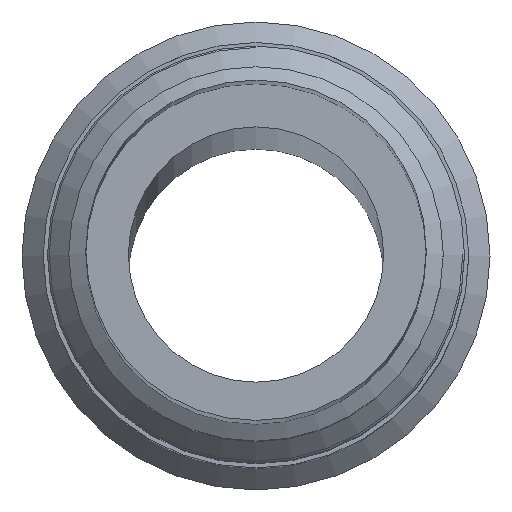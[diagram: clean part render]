
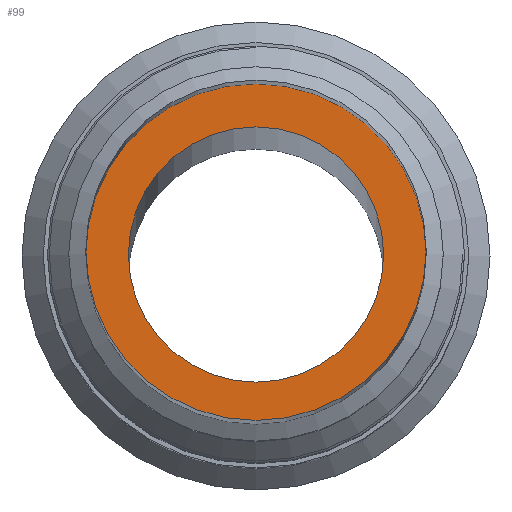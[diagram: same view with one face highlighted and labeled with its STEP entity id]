
A CAD part, top view. The second image highlights one B-rep face of the part: STEP entity #99.
In plain terms, the highlighted planar face has unit normal (0, 0, 1).
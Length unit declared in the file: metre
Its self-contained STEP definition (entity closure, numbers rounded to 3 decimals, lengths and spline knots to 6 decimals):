
#99=ADVANCED_FACE('',(#224,#225),#226,.T.);
#135=EDGE_CURVE('',#289,#289,#290,.T.);
#137=EDGE_CURVE('',#292,#292,#293,.T.);
#224=FACE_BOUND('',#396,.T.);
#225=FACE_OUTER_BOUND('',#397,.T.);
#226=PLANE('',#398);
#289=VERTEX_POINT('',#467);
#290=CIRCLE('',#468,0.003);
#292=VERTEX_POINT('',#471);
#293=CIRCLE('',#472,0.0044);
#396=EDGE_LOOP('',(#586));
#397=EDGE_LOOP('',(#587));
#398=AXIS2_PLACEMENT_3D('',#588,#589,#590);
#467=CARTESIAN_POINT('',(0.003,0.,0.02));
#468=AXIS2_PLACEMENT_3D('',#691,#692,#693);
#471=CARTESIAN_POINT('',(0.0044,0.,0.02));
#472=AXIS2_PLACEMENT_3D('',#694,#695,#696);
#586=ORIENTED_EDGE('',*,*,#135,.T.);
#587=ORIENTED_EDGE('',*,*,#137,.T.);
#588=CARTESIAN_POINT('',(0.0,0.,0.02));
#589=DIRECTION('',(0.0,0.0,1.0));
#590=DIRECTION('',(1.0,0.0,0.0));
#691=CARTESIAN_POINT('',(0.0,0.,0.02));
#692=DIRECTION('',(0.0,0.0,-1.0));
#693=DIRECTION('',(1.0,0.0,0.0));
#694=CARTESIAN_POINT('',(0.0,0.,0.02));
#695=DIRECTION('',(0.0,0.0,1.0));
#696=DIRECTION('',(1.0,0.0,-0.0));
